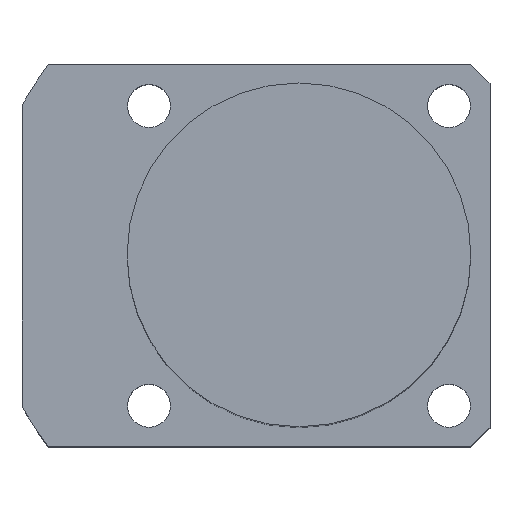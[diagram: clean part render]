
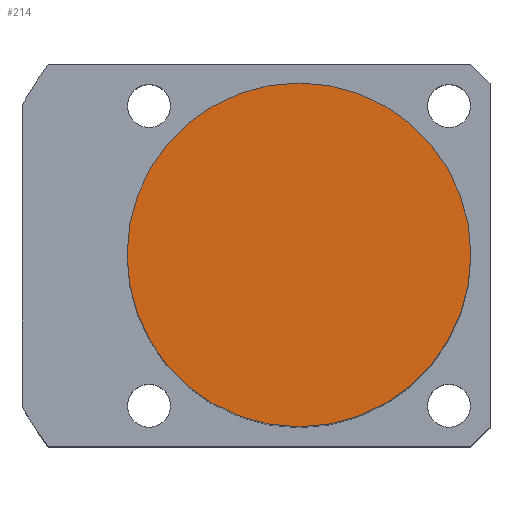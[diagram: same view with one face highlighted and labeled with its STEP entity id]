
A CAD part, top view. The second image highlights one B-rep face of the part: STEP entity #214.
In plain terms, the highlighted planar face has unit normal (0, 0, 1).
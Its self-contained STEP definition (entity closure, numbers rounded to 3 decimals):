
#119 = CARTESIAN_POINT ( 'NONE',  ( 0., 0., 68.5 ) ) ;
#214 = ADVANCED_FACE ( 'NONE', ( #834 ), #622, .T. ) ;
#278 = DIRECTION ( 'NONE',  ( 1., 0., 0. ) ) ;
#327 = DIRECTION ( 'NONE',  ( 0., 0., 1. ) ) ;
#337 = AXIS2_PLACEMENT_3D ( 'NONE', #119, #406, #278 ) ;
#348 = ORIENTED_EDGE ( 'NONE', *, *, #495, .T. ) ;
#406 = DIRECTION ( 'NONE',  ( 0., 0., 1. ) ) ;
#495 = EDGE_CURVE ( 'NONE', #686, #749, #1630, .T. ) ;
#622 = PLANE ( 'NONE',  #1656 ) ;
#686 = VERTEX_POINT ( 'NONE', #1520 ) ;
#749 = VERTEX_POINT ( 'NONE', #1108 ) ;
#752 = CARTESIAN_POINT ( 'NONE',  ( 0., 0., 68.5 ) ) ;
#780 = DIRECTION ( 'NONE',  ( 1., 0., 0. ) ) ;
#834 = FACE_OUTER_BOUND ( 'NONE', #1766, .T. ) ;
#899 = DIRECTION ( 'NONE',  ( 1., 0., 0. ) ) ;
#1108 = CARTESIAN_POINT ( 'NONE',  ( -18., 0., 68.5 ) ) ;
#1210 = CARTESIAN_POINT ( 'NONE',  ( 0., 0., 68.5 ) ) ;
#1280 = EDGE_CURVE ( 'NONE', #749, #686, #1468, .T. ) ;
#1468 = CIRCLE ( 'NONE', #1503, 18. ) ;
#1503 = AXIS2_PLACEMENT_3D ( 'NONE', #1210, #327, #780 ) ;
#1520 = CARTESIAN_POINT ( 'NONE',  ( 18., 0., 68.5 ) ) ;
#1617 = ORIENTED_EDGE ( 'NONE', *, *, #1280, .T. ) ;
#1630 = CIRCLE ( 'NONE', #337, 18. ) ;
#1656 = AXIS2_PLACEMENT_3D ( 'NONE', #752, #1799, #899 ) ;
#1766 = EDGE_LOOP ( 'NONE', ( #1617, #348 ) ) ;
#1799 = DIRECTION ( 'NONE',  ( 0., 0., 1. ) ) ;
